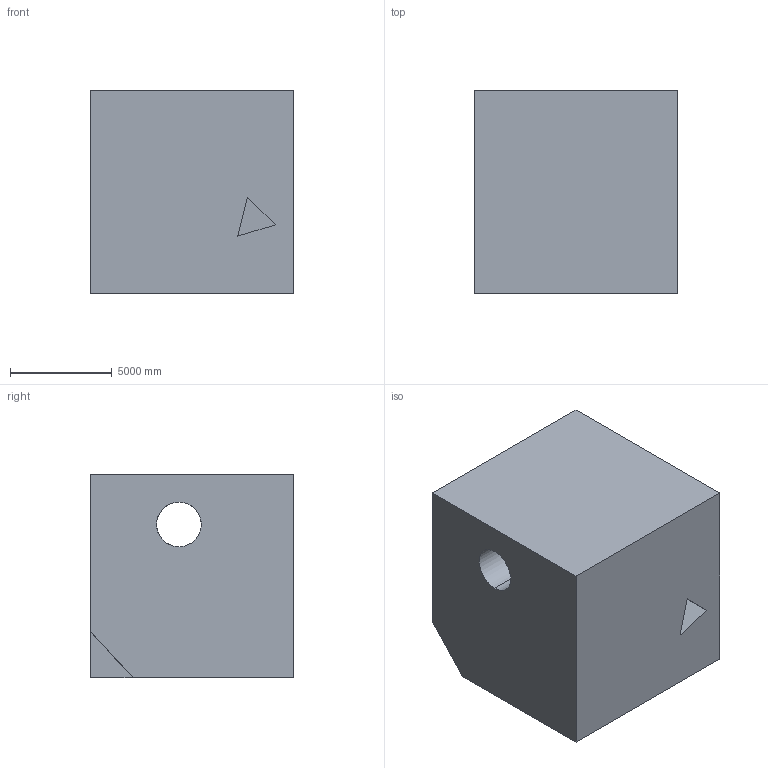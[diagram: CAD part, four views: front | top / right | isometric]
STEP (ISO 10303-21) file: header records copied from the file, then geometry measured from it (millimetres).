
FILE_DESCRIPTION (( 'STEP AP203' ), '1' );
FILE_NAME ('280.STEP', '2022-09-07T12:35:32', ( 'user' ), ( '' ), 'SwSTEP 2.0', 'SolidWorks 2021', '' );
FILE_SCHEMA (( 'CONFIG_CONTROL_DESIGN' ));
Length unit declared in the file: centimetre
Products named in the file (1): 280
Bounding box: 10000 x 10000 x 10000 mm (x, y, z)
Volume: 906212943673.2 mm3; surface area: 710402350.7 mm2
Topology: 1 solids, 1 shells, 23 faces, 63 edges, 42 vertices
Faces by surface type: plane 18, cylinder 5
Entity records: 932 total; most frequent: CARTESIAN_POINT 265, ORIENTED_EDGE 126, DIRECTION 115, EDGE_CURVE 63, VECTOR 51, LINE 51, VERTEX_POINT 42, AXIS2_PLACEMENT_3D 32
